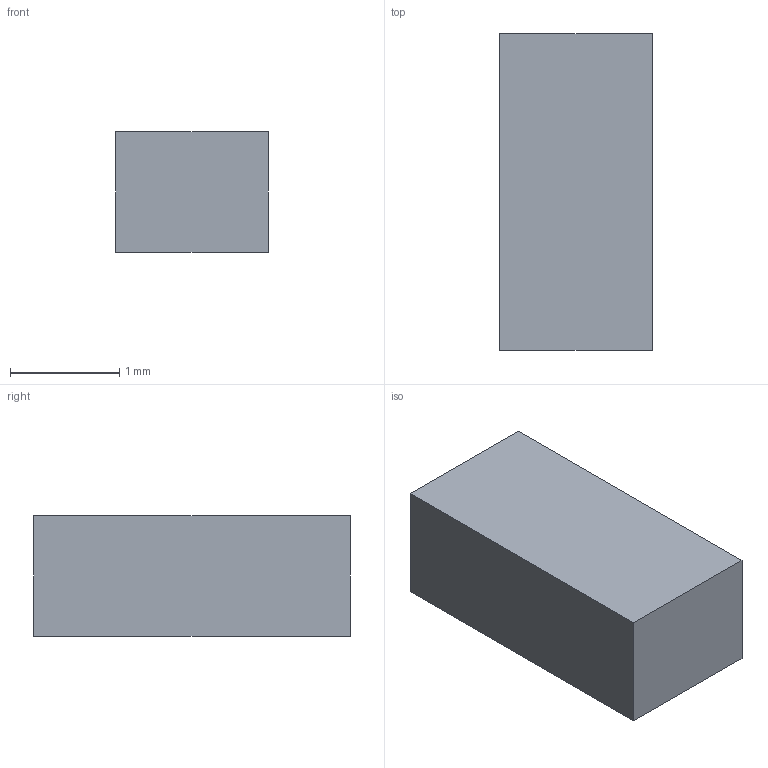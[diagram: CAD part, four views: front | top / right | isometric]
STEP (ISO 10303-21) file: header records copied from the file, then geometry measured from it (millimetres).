
FILE_DESCRIPTION((''),'2;1');
FILE_NAME('SOT23_R1','2026-10-06T14:54:11',('line0'),(''),'CREO PARAMETRIC BY PTC INC, 2024344','CREO PARAMETRIC BY PTC INC, 2024344','');
FILE_SCHEMA(('AUTOMOTIVE_DESIGN { 1 0 10303 214 1 1 1 1 }'));
Length unit declared in the file: millimetre
Products named in the file (1): SOT23_R1
Bounding box: 1.4 x 2.9 x 1.1 mm (x, y, z)
Volume: 4.5 mm3; surface area: 17.6 mm2
Topology: 1 solids, 1 shells, 6 faces, 12 edges, 8 vertices
Faces by surface type: plane 6
Entity records: 356 total; most frequent: DIRECTION 41, CARTESIAN_POINT 39, ORIENTED_EDGE 24, PRESENTATION_STYLE_ASSIGNMENT 14, STYLED_ITEM 14, CURVE_STYLE 13, AXIS2_PLACEMENT_3D 13, VECTOR 12
